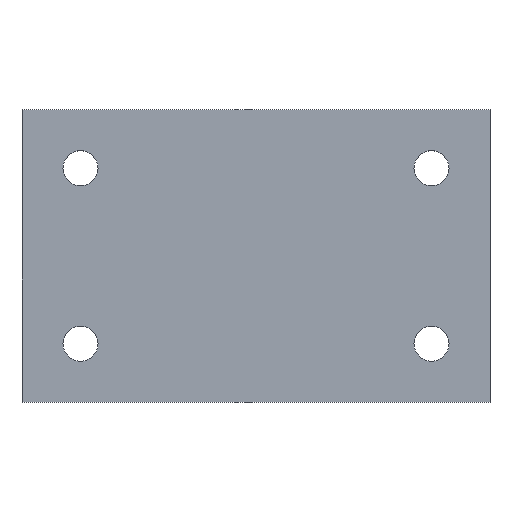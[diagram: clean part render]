
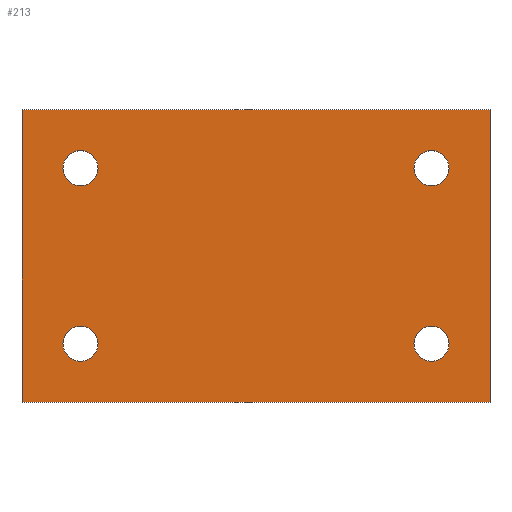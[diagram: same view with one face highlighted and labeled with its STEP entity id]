
A CAD part, top view. The second image highlights one B-rep face of the part: STEP entity #213.
In plain terms, the highlighted planar face has unit normal (0, 0, 1).
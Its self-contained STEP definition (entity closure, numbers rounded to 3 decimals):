
#24 = VERTEX_POINT('',#25);
#25 = CARTESIAN_POINT('',(0.,0.,8.));
#32 = PLANE('',#33);
#33 = AXIS2_PLACEMENT_3D('',#34,#35,#36);
#34 = CARTESIAN_POINT('',(0.,0.,0.));
#35 = DIRECTION('',(1.,0.,-0.));
#36 = DIRECTION('',(0.,0.,1.));
#44 = PLANE('',#45);
#45 = AXIS2_PLACEMENT_3D('',#46,#47,#48);
#46 = CARTESIAN_POINT('',(0.,0.,0.));
#47 = DIRECTION('',(-0.,1.,0.));
#48 = DIRECTION('',(0.,0.,1.));
#85 = VERTEX_POINT('',#86);
#86 = CARTESIAN_POINT('',(0.,50.,8.));
#100 = PLANE('',#101);
#101 = AXIS2_PLACEMENT_3D('',#102,#103,#104);
#102 = CARTESIAN_POINT('',(0.,50.,0.));
#103 = DIRECTION('',(-0.,1.,0.));
#104 = DIRECTION('',(0.,0.,1.));
#112 = EDGE_CURVE('',#24,#85,#113,.T.);
#113 = SURFACE_CURVE('',#114,(#118,#125),.PCURVE_S1.);
#114 = LINE('',#115,#116);
#115 = CARTESIAN_POINT('',(0.,0.,8.));
#116 = VECTOR('',#117,1.);
#117 = DIRECTION('',(-0.,1.,0.));
#118 = PCURVE('',#32,#119);
#119 = DEFINITIONAL_REPRESENTATION('',(#120),#124);
#120 = LINE('',#121,#122);
#121 = CARTESIAN_POINT('',(8.,0.));
#122 = VECTOR('',#123,1.);
#123 = DIRECTION('',(0.,-1.));
#124 = ( GEOMETRIC_REPRESENTATION_CONTEXT(2) 
PARAMETRIC_REPRESENTATION_CONTEXT() REPRESENTATION_CONTEXT('2D SPACE',''
  ) );
#125 = PCURVE('',#126,#131);
#126 = PLANE('',#127);
#127 = AXIS2_PLACEMENT_3D('',#128,#129,#130);
#128 = CARTESIAN_POINT('',(0.,0.,8.));
#129 = DIRECTION('',(0.,0.,1.));
#130 = DIRECTION('',(1.,0.,-0.));
#131 = DEFINITIONAL_REPRESENTATION('',(#132),#136);
#132 = LINE('',#133,#134);
#133 = CARTESIAN_POINT('',(0.,0.));
#134 = VECTOR('',#135,1.);
#135 = DIRECTION('',(0.,1.));
#136 = ( GEOMETRIC_REPRESENTATION_CONTEXT(2) 
PARAMETRIC_REPRESENTATION_CONTEXT() REPRESENTATION_CONTEXT('2D SPACE',''
  ) );
#165 = EDGE_CURVE('',#24,#166,#168,.T.);
#166 = VERTEX_POINT('',#167);
#167 = CARTESIAN_POINT('',(80.,0.,8.));
#168 = SURFACE_CURVE('',#169,(#173,#180),.PCURVE_S1.);
#169 = LINE('',#170,#171);
#170 = CARTESIAN_POINT('',(0.,0.,8.));
#171 = VECTOR('',#172,1.);
#172 = DIRECTION('',(1.,0.,-0.));
#173 = PCURVE('',#44,#174);
#174 = DEFINITIONAL_REPRESENTATION('',(#175),#179);
#175 = LINE('',#176,#177);
#176 = CARTESIAN_POINT('',(8.,0.));
#177 = VECTOR('',#178,1.);
#178 = DIRECTION('',(0.,1.));
#179 = ( GEOMETRIC_REPRESENTATION_CONTEXT(2) 
PARAMETRIC_REPRESENTATION_CONTEXT() REPRESENTATION_CONTEXT('2D SPACE',''
  ) );
#180 = PCURVE('',#126,#181);
#181 = DEFINITIONAL_REPRESENTATION('',(#182),#186);
#182 = LINE('',#183,#184);
#183 = CARTESIAN_POINT('',(0.,0.));
#184 = VECTOR('',#185,1.);
#185 = DIRECTION('',(1.,0.));
#186 = ( GEOMETRIC_REPRESENTATION_CONTEXT(2) 
PARAMETRIC_REPRESENTATION_CONTEXT() REPRESENTATION_CONTEXT('2D SPACE',''
  ) );
#202 = PLANE('',#203);
#203 = AXIS2_PLACEMENT_3D('',#204,#205,#206);
#204 = CARTESIAN_POINT('',(80.,0.,0.));
#205 = DIRECTION('',(1.,0.,-0.));
#206 = DIRECTION('',(0.,0.,1.));
#213 = ADVANCED_FACE('',(#214,#262,#293,#324,#355),#126,.T.);
#214 = FACE_BOUND('',#215,.T.);
#215 = EDGE_LOOP('',(#216,#217,#218,#241));
#216 = ORIENTED_EDGE('',*,*,#112,.F.);
#217 = ORIENTED_EDGE('',*,*,#165,.T.);
#218 = ORIENTED_EDGE('',*,*,#219,.T.);
#219 = EDGE_CURVE('',#166,#220,#222,.T.);
#220 = VERTEX_POINT('',#221);
#221 = CARTESIAN_POINT('',(80.,50.,8.));
#222 = SURFACE_CURVE('',#223,(#227,#234),.PCURVE_S1.);
#223 = LINE('',#224,#225);
#224 = CARTESIAN_POINT('',(80.,0.,8.));
#225 = VECTOR('',#226,1.);
#226 = DIRECTION('',(-0.,1.,0.));
#227 = PCURVE('',#126,#228);
#228 = DEFINITIONAL_REPRESENTATION('',(#229),#233);
#229 = LINE('',#230,#231);
#230 = CARTESIAN_POINT('',(80.,0.));
#231 = VECTOR('',#232,1.);
#232 = DIRECTION('',(0.,1.));
#233 = ( GEOMETRIC_REPRESENTATION_CONTEXT(2) 
PARAMETRIC_REPRESENTATION_CONTEXT() REPRESENTATION_CONTEXT('2D SPACE',''
  ) );
#234 = PCURVE('',#202,#235);
#235 = DEFINITIONAL_REPRESENTATION('',(#236),#240);
#236 = LINE('',#237,#238);
#237 = CARTESIAN_POINT('',(8.,0.));
#238 = VECTOR('',#239,1.);
#239 = DIRECTION('',(0.,-1.));
#240 = ( GEOMETRIC_REPRESENTATION_CONTEXT(2) 
PARAMETRIC_REPRESENTATION_CONTEXT() REPRESENTATION_CONTEXT('2D SPACE',''
  ) );
#241 = ORIENTED_EDGE('',*,*,#242,.F.);
#242 = EDGE_CURVE('',#85,#220,#243,.T.);
#243 = SURFACE_CURVE('',#244,(#248,#255),.PCURVE_S1.);
#244 = LINE('',#245,#246);
#245 = CARTESIAN_POINT('',(0.,50.,8.));
#246 = VECTOR('',#247,1.);
#247 = DIRECTION('',(1.,0.,-0.));
#248 = PCURVE('',#126,#249);
#249 = DEFINITIONAL_REPRESENTATION('',(#250),#254);
#250 = LINE('',#251,#252);
#251 = CARTESIAN_POINT('',(0.,50.));
#252 = VECTOR('',#253,1.);
#253 = DIRECTION('',(1.,0.));
#254 = ( GEOMETRIC_REPRESENTATION_CONTEXT(2) 
PARAMETRIC_REPRESENTATION_CONTEXT() REPRESENTATION_CONTEXT('2D SPACE',''
  ) );
#255 = PCURVE('',#100,#256);
#256 = DEFINITIONAL_REPRESENTATION('',(#257),#261);
#257 = LINE('',#258,#259);
#258 = CARTESIAN_POINT('',(8.,0.));
#259 = VECTOR('',#260,1.);
#260 = DIRECTION('',(0.,1.));
#261 = ( GEOMETRIC_REPRESENTATION_CONTEXT(2) 
PARAMETRIC_REPRESENTATION_CONTEXT() REPRESENTATION_CONTEXT('2D SPACE',''
  ) );
#262 = FACE_BOUND('',#263,.T.);
#263 = EDGE_LOOP('',(#264));
#264 = ORIENTED_EDGE('',*,*,#265,.F.);
#265 = EDGE_CURVE('',#266,#266,#268,.T.);
#266 = VERTEX_POINT('',#267);
#267 = CARTESIAN_POINT('',(13.,10.,8.));
#268 = SURFACE_CURVE('',#269,(#274,#281),.PCURVE_S1.);
#269 = CIRCLE('',#270,3.);
#270 = AXIS2_PLACEMENT_3D('',#271,#272,#273);
#271 = CARTESIAN_POINT('',(10.,10.,8.));
#272 = DIRECTION('',(0.,0.,1.));
#273 = DIRECTION('',(1.,0.,-0.));
#274 = PCURVE('',#126,#275);
#275 = DEFINITIONAL_REPRESENTATION('',(#276),#280);
#276 = CIRCLE('',#277,3.);
#277 = AXIS2_PLACEMENT_2D('',#278,#279);
#278 = CARTESIAN_POINT('',(10.,10.));
#279 = DIRECTION('',(1.,0.));
#280 = ( GEOMETRIC_REPRESENTATION_CONTEXT(2) 
PARAMETRIC_REPRESENTATION_CONTEXT() REPRESENTATION_CONTEXT('2D SPACE',''
  ) );
#281 = PCURVE('',#282,#287);
#282 = CYLINDRICAL_SURFACE('',#283,3.);
#283 = AXIS2_PLACEMENT_3D('',#284,#285,#286);
#284 = CARTESIAN_POINT('',(10.,10.,-1.));
#285 = DIRECTION('',(0.,0.,1.));
#286 = DIRECTION('',(1.,0.,-0.));
#287 = DEFINITIONAL_REPRESENTATION('',(#288),#292);
#288 = LINE('',#289,#290);
#289 = CARTESIAN_POINT('',(0.,9.));
#290 = VECTOR('',#291,1.);
#291 = DIRECTION('',(1.,0.));
#292 = ( GEOMETRIC_REPRESENTATION_CONTEXT(2) 
PARAMETRIC_REPRESENTATION_CONTEXT() REPRESENTATION_CONTEXT('2D SPACE',''
  ) );
#293 = FACE_BOUND('',#294,.T.);
#294 = EDGE_LOOP('',(#295));
#295 = ORIENTED_EDGE('',*,*,#296,.F.);
#296 = EDGE_CURVE('',#297,#297,#299,.T.);
#297 = VERTEX_POINT('',#298);
#298 = CARTESIAN_POINT('',(73.,10.,8.));
#299 = SURFACE_CURVE('',#300,(#305,#312),.PCURVE_S1.);
#300 = CIRCLE('',#301,3.);
#301 = AXIS2_PLACEMENT_3D('',#302,#303,#304);
#302 = CARTESIAN_POINT('',(70.,10.,8.));
#303 = DIRECTION('',(0.,0.,1.));
#304 = DIRECTION('',(1.,0.,-0.));
#305 = PCURVE('',#126,#306);
#306 = DEFINITIONAL_REPRESENTATION('',(#307),#311);
#307 = CIRCLE('',#308,3.);
#308 = AXIS2_PLACEMENT_2D('',#309,#310);
#309 = CARTESIAN_POINT('',(70.,10.));
#310 = DIRECTION('',(1.,0.));
#311 = ( GEOMETRIC_REPRESENTATION_CONTEXT(2) 
PARAMETRIC_REPRESENTATION_CONTEXT() REPRESENTATION_CONTEXT('2D SPACE',''
  ) );
#312 = PCURVE('',#313,#318);
#313 = CYLINDRICAL_SURFACE('',#314,3.);
#314 = AXIS2_PLACEMENT_3D('',#315,#316,#317);
#315 = CARTESIAN_POINT('',(70.,10.,-1.));
#316 = DIRECTION('',(0.,0.,1.));
#317 = DIRECTION('',(1.,0.,-0.));
#318 = DEFINITIONAL_REPRESENTATION('',(#319),#323);
#319 = LINE('',#320,#321);
#320 = CARTESIAN_POINT('',(0.,9.));
#321 = VECTOR('',#322,1.);
#322 = DIRECTION('',(1.,0.));
#323 = ( GEOMETRIC_REPRESENTATION_CONTEXT(2) 
PARAMETRIC_REPRESENTATION_CONTEXT() REPRESENTATION_CONTEXT('2D SPACE',''
  ) );
#324 = FACE_BOUND('',#325,.T.);
#325 = EDGE_LOOP('',(#326));
#326 = ORIENTED_EDGE('',*,*,#327,.F.);
#327 = EDGE_CURVE('',#328,#328,#330,.T.);
#328 = VERTEX_POINT('',#329);
#329 = CARTESIAN_POINT('',(13.,40.,8.));
#330 = SURFACE_CURVE('',#331,(#336,#343),.PCURVE_S1.);
#331 = CIRCLE('',#332,3.);
#332 = AXIS2_PLACEMENT_3D('',#333,#334,#335);
#333 = CARTESIAN_POINT('',(10.,40.,8.));
#334 = DIRECTION('',(0.,0.,1.));
#335 = DIRECTION('',(1.,0.,-0.));
#336 = PCURVE('',#126,#337);
#337 = DEFINITIONAL_REPRESENTATION('',(#338),#342);
#338 = CIRCLE('',#339,3.);
#339 = AXIS2_PLACEMENT_2D('',#340,#341);
#340 = CARTESIAN_POINT('',(10.,40.));
#341 = DIRECTION('',(1.,0.));
#342 = ( GEOMETRIC_REPRESENTATION_CONTEXT(2) 
PARAMETRIC_REPRESENTATION_CONTEXT() REPRESENTATION_CONTEXT('2D SPACE',''
  ) );
#343 = PCURVE('',#344,#349);
#344 = CYLINDRICAL_SURFACE('',#345,3.);
#345 = AXIS2_PLACEMENT_3D('',#346,#347,#348);
#346 = CARTESIAN_POINT('',(10.,40.,-1.));
#347 = DIRECTION('',(0.,0.,1.));
#348 = DIRECTION('',(1.,0.,-0.));
#349 = DEFINITIONAL_REPRESENTATION('',(#350),#354);
#350 = LINE('',#351,#352);
#351 = CARTESIAN_POINT('',(0.,9.));
#352 = VECTOR('',#353,1.);
#353 = DIRECTION('',(1.,0.));
#354 = ( GEOMETRIC_REPRESENTATION_CONTEXT(2) 
PARAMETRIC_REPRESENTATION_CONTEXT() REPRESENTATION_CONTEXT('2D SPACE',''
  ) );
#355 = FACE_BOUND('',#356,.T.);
#356 = EDGE_LOOP('',(#357));
#357 = ORIENTED_EDGE('',*,*,#358,.F.);
#358 = EDGE_CURVE('',#359,#359,#361,.T.);
#359 = VERTEX_POINT('',#360);
#360 = CARTESIAN_POINT('',(73.,40.,8.));
#361 = SURFACE_CURVE('',#362,(#367,#374),.PCURVE_S1.);
#362 = CIRCLE('',#363,3.);
#363 = AXIS2_PLACEMENT_3D('',#364,#365,#366);
#364 = CARTESIAN_POINT('',(70.,40.,8.));
#365 = DIRECTION('',(0.,0.,1.));
#366 = DIRECTION('',(1.,0.,-0.));
#367 = PCURVE('',#126,#368);
#368 = DEFINITIONAL_REPRESENTATION('',(#369),#373);
#369 = CIRCLE('',#370,3.);
#370 = AXIS2_PLACEMENT_2D('',#371,#372);
#371 = CARTESIAN_POINT('',(70.,40.));
#372 = DIRECTION('',(1.,0.));
#373 = ( GEOMETRIC_REPRESENTATION_CONTEXT(2) 
PARAMETRIC_REPRESENTATION_CONTEXT() REPRESENTATION_CONTEXT('2D SPACE',''
  ) );
#374 = PCURVE('',#375,#380);
#375 = CYLINDRICAL_SURFACE('',#376,3.);
#376 = AXIS2_PLACEMENT_3D('',#377,#378,#379);
#377 = CARTESIAN_POINT('',(70.,40.,-1.));
#378 = DIRECTION('',(0.,0.,1.));
#379 = DIRECTION('',(1.,0.,-0.));
#380 = DEFINITIONAL_REPRESENTATION('',(#381),#385);
#381 = LINE('',#382,#383);
#382 = CARTESIAN_POINT('',(0.,9.));
#383 = VECTOR('',#384,1.);
#384 = DIRECTION('',(1.,0.));
#385 = ( GEOMETRIC_REPRESENTATION_CONTEXT(2) 
PARAMETRIC_REPRESENTATION_CONTEXT() REPRESENTATION_CONTEXT('2D SPACE',''
  ) );
